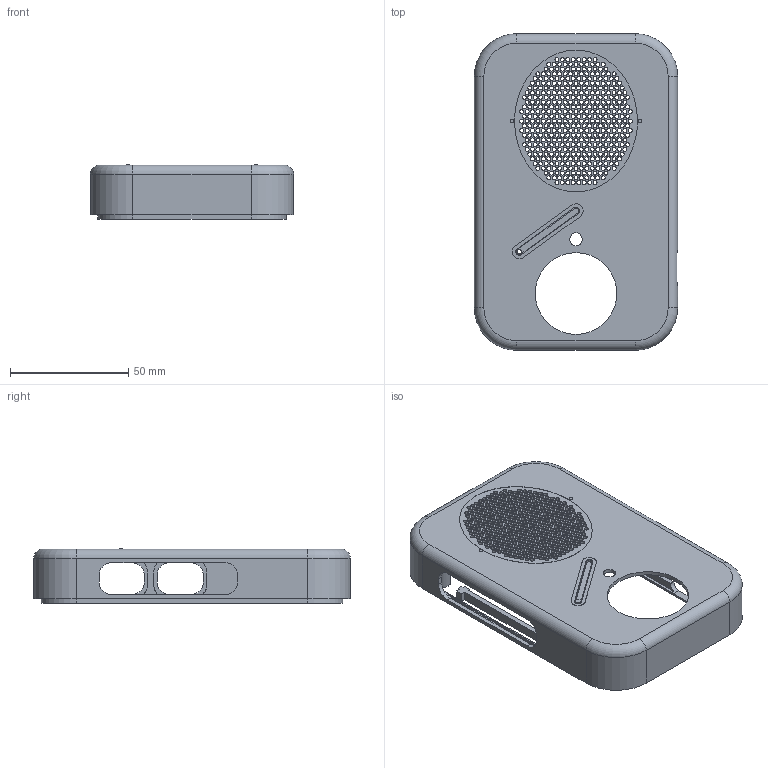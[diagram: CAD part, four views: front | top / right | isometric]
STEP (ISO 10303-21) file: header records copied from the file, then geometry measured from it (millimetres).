
FILE_DESCRIPTION(('Open CASCADE Model'),'2;1');
FILE_NAME('Open CASCADE Shape Model','2026-09-06T11:43:30',('Author'),( 'Open CASCADE'),'Open CASCADE STEP processor 7.7','Open CASCADE 7.7' ,'Unknown');
FILE_SCHEMA(('AUTOMOTIVE_DESIGN { 1 0 10303 214 1 1 1 1 }'));
Products named in the file (1): Open CASCADE STEP translator 7.7 1
Bounding box: 86 x 134 x 23.3 mm (x, y, z)
Volume: 35756.3 mm3; surface area: 42484.9 mm2
Topology: 1 solids, 3 shells, 727 faces, 2132 edges, 1414 vertices
Faces by surface type: cylinder 538, plane 180, torus 8, extrusion 1
Full cylindrical faces by diameter (mm): 1.5 x2, 1.7 x453, 1.8 x1, 5.4 x1, 6.3 x1, 34.6 x1
Entity records: 57275 total; most frequent: CARTESIAN_POINT 14663, DIRECTION 7889, ORIENTED_EDGE 4264, PCURVE 4264, DEFINITIONAL_REPRESENTATION 4264, VECTOR 4082, LINE 4081, EDGE_CURVE 2132
